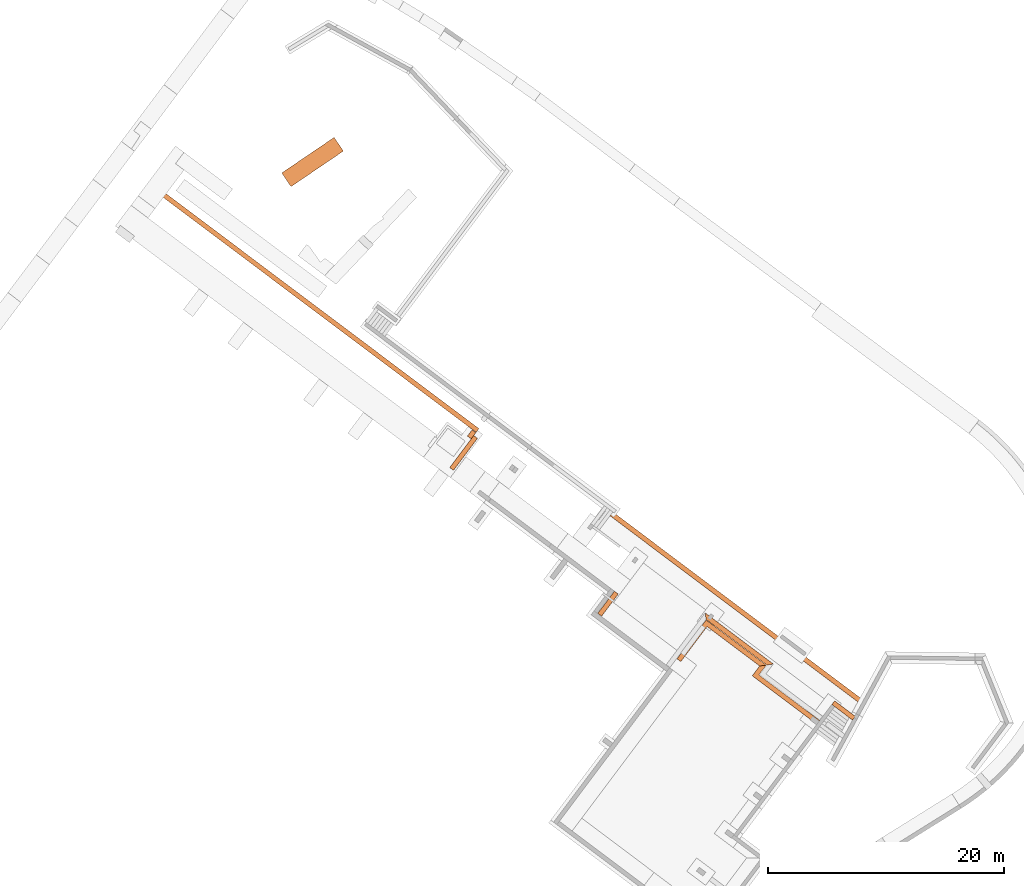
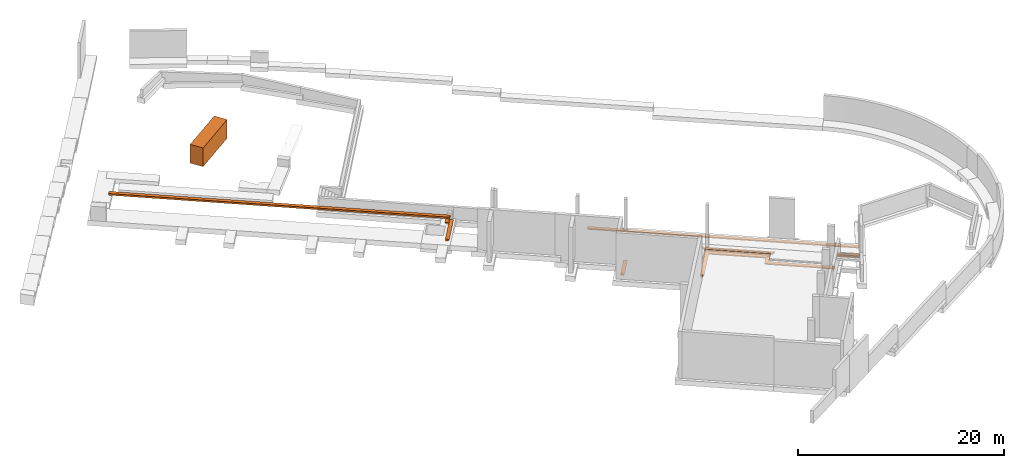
# One storey, part 8 of 9: 9 proxies.
"""IFC2X3 building model written with IfcOpenShell, lengths in metres."""

from ifc_helpers import new_model, entity, si_unit, converted_unit, derived_unit, direction, frame, frame_2d, origin, place, context, subcontext, project, spatial, polyline, rectangle, outline, extrude, faceted_brep, source, transform, mapped, material, material_list, type_object, type_shapes, element, save


model = new_model("IFC2X3")

# Units and contexts
model_context = context("Model", 3, precision=1e-05, world=origin(), true_north=direction((6.123031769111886e-17, 1.0)))
body_context = subcontext(model_context, "Body", "Model", "MODEL_VIEW")
ifc_project = project(units=[si_unit("LENGTHUNIT", "METRE"), si_unit("AREAUNIT", "SQUARE_METRE"), si_unit("VOLUMEUNIT", "CUBIC_METRE"), converted_unit("PLANEANGLEUNIT", "DEGREE", entity("IfcRatioMeasure", 0.017453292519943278), si_unit("PLANEANGLEUNIT", "RADIAN"), dimensions=[0, 0, 0, 0, 0, 0, 0]), si_unit("MASSUNIT", "GRAM", prefix="KILO"), derived_unit("MASSDENSITYUNIT", [(si_unit("MASSUNIT", "GRAM", prefix="KILO"), 1), (si_unit("LENGTHUNIT", "METRE"), -3)]), derived_unit("IONCONCENTRATIONUNIT", [(si_unit("MASSUNIT", "GRAM", prefix="KILO"), 1), (si_unit("LENGTHUNIT", "METRE"), -3)]), derived_unit("MOMENTOFINERTIAUNIT", [(si_unit("LENGTHUNIT", "METRE"), 4)]), si_unit("TIMEUNIT", "SECOND"), si_unit("FREQUENCYUNIT", "HERTZ"), si_unit("THERMODYNAMICTEMPERATUREUNIT", "DEGREE_CELSIUS"), derived_unit("THERMALTRANSMITTANCEUNIT", [(si_unit("MASSUNIT", "GRAM", prefix="KILO"), 1), (si_unit("THERMODYNAMICTEMPERATUREUNIT", "KELVIN"), -1), (si_unit("TIMEUNIT", "SECOND"), -3)]), derived_unit("THERMALCONDUCTANCEUNIT", [(si_unit("MASSUNIT", "GRAM", prefix="KILO"), 1), (si_unit("THERMODYNAMICTEMPERATUREUNIT", "KELVIN"), -1), (si_unit("TIMEUNIT", "SECOND"), -3), (si_unit("LENGTHUNIT", "METRE"), 1)]), derived_unit("VOLUMETRICFLOWRATEUNIT", [(si_unit("LENGTHUNIT", "METRE"), 3), (si_unit("TIMEUNIT", "SECOND"), -1)]), derived_unit("MASSFLOWRATEUNIT", [(si_unit("MASSUNIT", "GRAM", prefix="KILO"), 1), (si_unit("TIMEUNIT", "SECOND"), -1)]), derived_unit("ROTATIONALFREQUENCYUNIT", [(si_unit("TIMEUNIT", "SECOND"), -1)]), si_unit("ELECTRICCURRENTUNIT", "AMPERE"), si_unit("ELECTRICVOLTAGEUNIT", "VOLT"), si_unit("POWERUNIT", "WATT"), si_unit("FORCEUNIT", "NEWTON", prefix="KILO"), si_unit("ILLUMINANCEUNIT", "LUX"), si_unit("LUMINOUSFLUXUNIT", "LUMEN"), si_unit("LUMINOUSINTENSITYUNIT", "CANDELA"), derived_unit("USERDEFINED", [(si_unit("MASSUNIT", "GRAM", prefix="KILO"), -1), (si_unit("LENGTHUNIT", "METRE"), -2), (si_unit("TIMEUNIT", "SECOND"), 3), (si_unit("LUMINOUSFLUXUNIT", "LUMEN"), 1)]), derived_unit("USERDEFINED", [(si_unit("MASSUNIT", "GRAM", prefix="KILO"), 1), (si_unit("TIMEUNIT", "SECOND"), -3), (si_unit("LENGTHUNIT", "METRE"), 3), (si_unit("ELECTRICCURRENTUNIT", "AMPERE"), -2)]), derived_unit("SOUNDPOWERUNIT", [(si_unit("MASSUNIT", "GRAM", prefix="KILO"), 1), (si_unit("TIMEUNIT", "SECOND"), -3), (si_unit("LENGTHUNIT", "METRE"), 2)]), derived_unit("SOUNDPRESSUREUNIT", [(si_unit("MASSUNIT", "GRAM", prefix="KILO"), 1), (si_unit("LENGTHUNIT", "METRE"), -1), (si_unit("TIMEUNIT", "SECOND"), -2)]), derived_unit("LINEARVELOCITYUNIT", [(si_unit("LENGTHUNIT", "METRE"), 1), (si_unit("TIMEUNIT", "SECOND"), -1)]), si_unit("PRESSUREUNIT", "PASCAL"), derived_unit("USERDEFINED", [(si_unit("MASSUNIT", "GRAM", prefix="KILO"), 1), (si_unit("LENGTHUNIT", "METRE"), -2), (si_unit("TIMEUNIT", "SECOND"), -2)]), derived_unit("LINEARFORCEUNIT", [(si_unit("MASSUNIT", "GRAM", prefix="KILO"), 1), (si_unit("TIMEUNIT", "SECOND"), -2)]), derived_unit("PLANARFORCEUNIT", [(si_unit("MASSUNIT", "GRAM", prefix="KILO"), 1), (si_unit("LENGTHUNIT", "METRE"), -1), (si_unit("TIMEUNIT", "SECOND"), -2)]), derived_unit("SPECIFICHEATCAPACITYUNIT", [(si_unit("THERMODYNAMICTEMPERATUREUNIT", "KELVIN"), -1), (si_unit("LENGTHUNIT", "METRE"), 2), (si_unit("TIMEUNIT", "SECOND"), -2)]), derived_unit("HEATINGVALUEUNIT", [(si_unit("LENGTHUNIT", "METRE"), 2), (si_unit("TIMEUNIT", "SECOND"), -2)]), derived_unit("VAPORPERMEABILITYUNIT", [(si_unit("LENGTHUNIT", "METRE"), -1), (si_unit("TIMEUNIT", "SECOND"), 1)]), derived_unit("DYNAMICVISCOSITYUNIT", [(si_unit("MASSUNIT", "GRAM", prefix="KILO"), 1), (si_unit("TIMEUNIT", "SECOND"), -1), (si_unit("LENGTHUNIT", "METRE"), -1)]), derived_unit("THERMALEXPANSIONCOEFFICIENTUNIT", [(si_unit("THERMODYNAMICTEMPERATUREUNIT", "KELVIN"), -1)]), derived_unit("MODULUSOFELASTICITYUNIT", [(si_unit("MASSUNIT", "GRAM", prefix="KILO"), 1), (si_unit("LENGTHUNIT", "METRE"), -1), (si_unit("TIMEUNIT", "SECOND"), -2)]), derived_unit("ISOTHERMALMOISTURECAPACITYUNIT", [(si_unit("LENGTHUNIT", "METRE"), 3), (si_unit("MASSUNIT", "GRAM", prefix="KILO"), -1)]), derived_unit("MOISTUREDIFFUSIVITYUNIT", [(si_unit("TIMEUNIT", "SECOND"), -1), (si_unit("LENGTHUNIT", "METRE"), 2)])], contexts=[model_context])

# Site, building, storey
site_placement = place(None, origin())
site = spatial("IfcSite", under=ifc_project, at=site_placement, Name="Default", CompositionType="ELEMENT")
building_placement = place(site_placement, frame((0.0, 0.0, 235.0), z_axis=(0.0, 0.0, 1.0), x_axis=(-0.7996477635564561, 0.6004693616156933, 0.0)))
building = spatial("IfcBuilding", under=site, at=building_placement, CompositionType="ELEMENT")
storey_placement = place(building_placement, frame((0.0, 0.0, -5.4499999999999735)))
storey = spatial("IfcBuildingStorey", under=building, at=storey_placement, Name="PS1- Gimnàs", CompositionType="ELEMENT", Elevation=-5.4499999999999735)

# Proxies
ifc_material_1 = material(Name="_Formigó Pobre- T1- STR")
ifc_material_2 = material(Name="_Formigó- T1- STR")
ifc_material_list = material_list([ifc_material_1, ifc_material_2])
building_element_proxy_type_1 = type_object("IfcBuildingElementProxyType", Name="STR- S- Formigó- Mur biblio:STR- S- Formigó- Mur biblio", PredefinedType="NOTDEFINED", material=ifc_material_list)
shared_shape = source(origin(), body_context, "Body", "SweptSolid", [
    extrude(rectangle(XDim=5.357463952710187, YDim=1.400000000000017, at=frame_2d((1.2434497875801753e-14, -9.43689570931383e-15), x_axis=(1.0, 0.0))), frame((1.5305285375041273, 2.7609994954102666, 0.0), z_axis=(0.0, 0.0, 1.0), x_axis=(-0.3241555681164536, -0.9460037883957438, 0.0)), (0.0, 0.0, 1.0), 1.6199999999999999),
    extrude(rectangle(XDim=5.357463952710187, YDim=1.4000000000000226, at=frame_2d((4.440892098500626e-15, -1.226796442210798e-14), x_axis=(1.0, 0.0))), frame((1.5305285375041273, 2.7609994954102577, 1.6199999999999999), z_axis=(0.0, 0.0, 1.0), x_axis=(-0.3241555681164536, -0.9460037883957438, 0.0)), (0.0, 0.0, 1.0), 0.6000000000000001),
])
type_shapes(building_element_proxy_type_1, [shared_shape])
proxy_1_placement = place(storey_placement, frame((64.32358221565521, -53.2291730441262, -0.32000000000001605)))
element("IfcBuildingElementProxy", 1, at=proxy_1_placement, inside=storey, type_object=building_element_proxy_type_1, material=ifc_material_list, Name="STR- S- Formigó- Mur biblio:STR- S- Formigó- Mur biblio", ObjectType="STR- S- Formigó- Mur biblio:STR- S- Formigó- Mur biblio", context=body_context, shape_type="MappedRepresentation", body=[
    mapped(shared_shape, transform((0.0, 0.0, 0.0), scale=1.0)),
])
building_element_proxy_type_2 = type_object("IfcBuildingElementProxyType", Name="Borde de losa:STR- Formigó- Vora solera 15 cm- 35x30 cm", PredefinedType="NOTDEFINED")
proxy_2_placement = place(storey_placement, frame((3.1451476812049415, -39.479989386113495, -0.5500000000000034)))
element("IfcBuildingElementProxy", 2, at=proxy_2_placement, inside=storey, type_object=building_element_proxy_type_2, Name="Borde de losa:STR- Formigó- Vora solera 15 cm- 35x30 cm", ObjectType="Borde de losa:STR- Formigó- Vora solera 15 cm- 35x30 cm", context=body_context, shape_type="Brep", body=[
    faceted_brep([(6.439999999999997, 0.0, 0.0), (6.739999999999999, 0.3000000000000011, 0.0), (6.839999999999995, 0.3999999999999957, 0.20000000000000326), (6.439999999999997, 0.0, 0.2000000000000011), (6.44, 1.0399999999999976, 0.2000000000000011), (6.44, 1.0399999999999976, 0.0), (0.0, 1.040000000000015, 0.0), (0.0, 1.040000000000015, 0.2000000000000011), (0.0, 1.4400000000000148, 0.20000000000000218), (0.0, 1.3400000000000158, 0.0), (6.840000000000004, 1.4399999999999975, 0.20000000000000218), (6.7400000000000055, 1.3399999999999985, 0.0)], [[[0, 1, 2, 3]], [[4, 5, 0, 3]], [[6, 7, 8, 9]], [[7, 6, 5, 4]], [[8, 7, 4, 10]], [[9, 8, 10, 11]], [[6, 9, 11, 5]], [[10, 4, 3, 2]], [[11, 10, 2, 1]], [[5, 11, 1, 0]]]),
])
proxy_3_placement = place(storey_placement, frame((9.585147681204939, -39.47998938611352, -0.5500000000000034)))
element("IfcBuildingElementProxy", 3, at=proxy_3_placement, inside=storey, type_object=building_element_proxy_type_2, Name="Borde de losa:STR- Formigó- Vora solera 15 cm- 35x30 cm", ObjectType="Borde de losa:STR- Formigó- Vora solera 15 cm- 35x30 cm", context=body_context, shape_type="Brep", body=[
    faceted_brep([(0.0, 0.0, 0.0), (0.0, 0.0, 0.2000000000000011), (0.3999999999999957, 0.40000000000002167, 0.20000000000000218), (0.3000000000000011, 0.3000000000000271, 0.0), (6.360000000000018, 0.0, 0.0), (6.360000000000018, 0.0, 0.2000000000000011), (5.960000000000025, 0.40000000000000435, 0.20000000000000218), (6.060000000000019, 0.30000000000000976, 0.0), (6.3600000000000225, 4.104790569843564, 0.0), (6.06000000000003, 4.104790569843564, 0.0), (5.960000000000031, 4.104790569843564, 0.20000000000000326), (6.060000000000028, 4.104790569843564, 0.20000000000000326), (6.360000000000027, 4.104790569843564, 0.2000000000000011)], [[[0, 1, 2, 3]], [[1, 0, 4, 5]], [[2, 1, 5, 6]], [[3, 2, 6, 7]], [[0, 3, 7, 4]], [[8, 9, 10, 11, 12]], [[5, 4, 8, 12]], [[6, 5, 12, 11, 10]], [[7, 6, 10, 9]], [[4, 7, 9, 8]]]),
])
proxy_4_placement = place(storey_placement, frame((0.9463448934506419, -40.54019175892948, -0.38000000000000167)))
element("IfcBuildingElementProxy", 4, at=proxy_4_placement, inside=storey, type_object=building_element_proxy_type_2, Name="Borde de losa:STR- Formigó- Vora solera 15 cm- 35x30 cm", ObjectType="Borde de losa:STR- Formigó- Vora solera 15 cm- 35x30 cm", context=body_context, shape_type="Brep", body=[
    faceted_brep([(2.198802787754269, 0.40000000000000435, 0.0), (2.198802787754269, 0.3999999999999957, 0.2), (2.198802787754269, 0.003133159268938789, 0.19373368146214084), (2.198802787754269, 0.10000000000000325, 0.0), (0.0, 0.400000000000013, 0.2), (0.0, 0.400000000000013, 0.0), (0.0, 0.10000000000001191, 0.0), (0.0, 0.0, 0.20000000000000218), (0.05846196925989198, 0.0, 0.2000000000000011), (0.058004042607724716, 0.003133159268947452, 0.19373368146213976)], [[[0, 1, 2, 3]], [[4, 5, 6, 7]], [[1, 0, 5, 4]], [[4, 7, 8]], [[7, 6, 3, 2, 9, 8]], [[0, 3, 6, 5]], [[9, 4, 8]], [[4, 9, 2, 1]]]),
])
proxy_5_placement = place(storey_placement, frame((1.224039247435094, -42.04019175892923, -0.40000000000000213)))
element("IfcBuildingElementProxy", 5, at=proxy_5_placement, inside=storey, type_object=building_element_proxy_type_2, Name="Borde de losa:STR- Formigó- Vora solera 15 cm- 35x30 cm", ObjectType="Borde de losa:STR- Formigó- Vora solera 15 cm- 35x30 cm", context=body_context, shape_type="SweptSolid", body=[
    extrude(outline(polyline([(-0.030266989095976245, -0.15540672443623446), (0.18918795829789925, -0.15540672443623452), (0.0055100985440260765, 0.19789201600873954), (-0.16443106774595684, 0.112921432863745), (-0.030266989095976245, -0.15540672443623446)])), frame((0.0, 0.17453580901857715, 0.09657161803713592), z_axis=(1.0, 0.0, 0.0), x_axis=(0.0, 0.44721359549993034, 0.8944271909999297)), (0.0, 0.0, 1.0), 26.52110843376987),
])
proxy_6_placement = place(storey_placement, frame((41.045147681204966, -40.45519175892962, 0.43999999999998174)))
element("IfcBuildingElementProxy", 6, at=proxy_6_placement, inside=storey, type_object=building_element_proxy_type_2, Name="Borde de losa:STR- Formigó- Vora solera 15 cm- 35x30 cm", ObjectType="Borde de losa:STR- Formigó- Vora solera 15 cm- 35x30 cm", context=body_context, shape_type="SweptSolid", body=[
    extrude(outline(polyline([(-0.1, -0.17499999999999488), (0.09999999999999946, -0.17499999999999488), (0.10000000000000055, 0.22500000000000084), (-0.09999999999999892, 0.12500000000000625), (-0.1, -0.17499999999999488)])), frame((0.17499999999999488, 0.0, 0.10000000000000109), z_axis=(0.0, 1.0, 0.0), x_axis=(0.0, 0.0, 1.0)), (0.0, 0.0, 1.0), 0.6669333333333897),
])
proxy_7_placement = place(storey_placement, frame((23.214805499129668, -36.765191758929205, -0.38000000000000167)))
element("IfcBuildingElementProxy", 7, at=proxy_7_placement, inside=storey, type_object=building_element_proxy_type_2, Name="Borde de losa:STR- Formigó- Vora solera 15 cm- 35x30 cm", ObjectType="Borde de losa:STR- Formigó- Vora solera 15 cm- 35x30 cm", context=body_context, shape_type="SweptSolid", body=[
    extrude(outline(polyline([(-0.17500000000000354, -0.10000000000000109), (0.12499999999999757, -0.10000000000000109), (0.2249999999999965, 0.1), (-0.17500000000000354, 0.09999999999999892), (-0.17500000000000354, -0.10000000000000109)])), frame((0.22499999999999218, 0.0, 0.10000000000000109), z_axis=(0.0, 1.0, 0.0), x_axis=(-1.0, 0.0, 0.0)), (0.0, 0.0, 1.0), 2.3459878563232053),
])
proxy_8_placement = place(storey_placement, frame((9.155147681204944, -39.90998938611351, -0.38000000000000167)))
element("IfcBuildingElementProxy", 8, at=proxy_8_placement, inside=storey, type_object=building_element_proxy_type_2, Name="Borde de losa:STR- Formigó- Vora solera 15 cm- 35x30 cm", ObjectType="Borde de losa:STR- Formigó- Vora solera 15 cm- 35x30 cm", context=body_context, shape_type="Brep", body=[
    faceted_brep([(6.820000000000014, 0.3999999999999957, 0.0), (6.820000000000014, 0.3999999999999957, 0.2), (7.220000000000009, 0.0, 0.2000000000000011), (7.120000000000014, 0.0999999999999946, 0.0), (0.3999999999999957, 0.400000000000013, 0.0), (0.09999999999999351, 0.10000000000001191, 0.0), (0.0, 0.0, 0.20000000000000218), (0.3999999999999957, 0.400000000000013, 0.2)], [[[0, 1, 2, 3]], [[4, 5, 6, 7]], [[1, 0, 4, 7]], [[2, 1, 7, 6]], [[3, 2, 6, 5]], [[0, 3, 5, 4]]]),
])
proxy_9_placement = place(storey_placement, frame((40.64910807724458, -40.880966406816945, 0.6199999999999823)))
element("IfcBuildingElementProxy", 9, at=proxy_9_placement, inside=storey, type_object=building_element_proxy_type_2, Name="Borde de losa:STR- Formigó- Vora solera 15 cm- 35x30 cm", ObjectType="Borde de losa:STR- Formigó- Vora solera 15 cm- 35x30 cm", context=body_context, shape_type="SweptSolid", body=[
    extrude(outline(polyline([(-0.17400990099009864, -0.0980198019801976), (0.12599009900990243, -0.0980198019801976), (0.22202970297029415, 0.09405940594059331), (-0.1740099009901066, 0.10198019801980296), (-0.17400990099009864, -0.0980198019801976)])), frame((0.22202970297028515, 0.738247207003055, 0.0980198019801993), z_axis=(0.0, 1.0, 0.0), x_axis=(-1.0, 0.0, 0.0)), (0.0, 0.0, 1.0), 3.377527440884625),
    extrude(outline(polyline([(-0.12883863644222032, -0.18157593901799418), (0.06528191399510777, -0.18157593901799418), (0.07116136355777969, -0.18157593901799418), (0.06271065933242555, 0.21419870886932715), (0.058523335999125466, 0.21210504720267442), (-0.12883863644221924, 0.11842406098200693), (-0.12883863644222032, -0.18157593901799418)])), frame((0.3960396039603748, 0.21419870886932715, 0.12883863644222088), z_axis=(1.0, 0.0, 0.0), x_axis=(0.0, 0.0, 1.0)), (0.0, 0.0, 1.0), 33.40000000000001),
])

save(model, "model.ifc")
